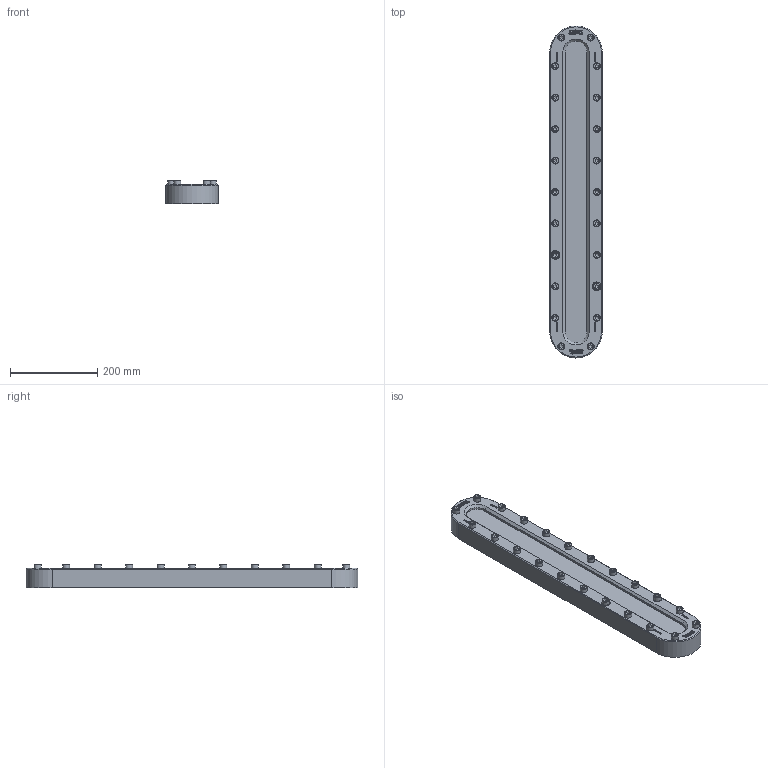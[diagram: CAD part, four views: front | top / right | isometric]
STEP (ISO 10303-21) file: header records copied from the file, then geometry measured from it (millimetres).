
FILE_DESCRIPTION(/* description */ (''),/* implementation_level */ '2;1');
FILE_NAME(/* name */ 'W:\Konstruktion_ACI\335\_Zeichnungen\STEP\ACI-335-760.stp',/* time_stamp */ '2022-03-01T17:59:44+01:00',/* author */ ('koslowksi'),/* organization */ ('ACI Industriearmaturen'),/* preprocessor_version */ 'ST-DEVELOPER v16.1',/* originating_system */ 'Autodesk Inventor 2016',/* authorisation */ '');
FILE_SCHEMA (('AUTOMOTIVE_DESIGN { 1 0 10303 214 3 1 1 }'));
Length unit declared in the file: centimetre
Products named in the file (1): ACI-335-760.stp
Bounding box: 120 x 760 x 54.9 mm (x, y, z)
Volume: 2994554.7 mm3; surface area: 301305.1 mm2
Topology: 1 solids, 1 shells, 1466 faces, 4000 edges, 2656 vertices
Faces by surface type: plane 964, bspline 424, cylinder 30, cone 26, torus 22
Full cylindrical faces by diameter (mm): 16 x22, 20 x2
Entity records: 48570 total; most frequent: CARTESIAN_POINT 13747, ORIENTED_EDGE 7780, DIRECTION 5082, EDGE_CURVE 3890, LINE 2824, VECTOR 2824, VERTEX_POINT 2614, EDGE_LOOP 1654
